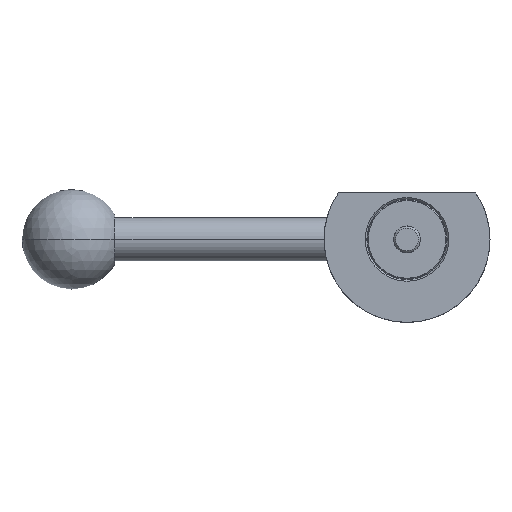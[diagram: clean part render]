
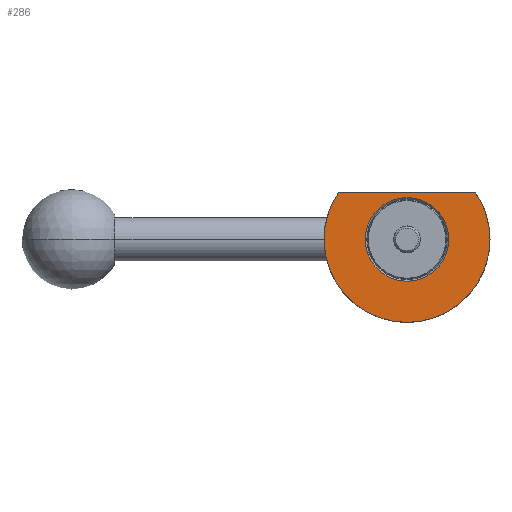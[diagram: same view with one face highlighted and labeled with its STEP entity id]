
A CAD part, front view. The second image highlights one B-rep face of the part: STEP entity #286.
In plain terms, the highlighted planar face has unit normal (0, -1, 0).
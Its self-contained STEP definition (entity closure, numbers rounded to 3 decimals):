
#32 = DIRECTION ( 'NONE',  ( 0., -1., 0. ) ) ;
#38 = DIRECTION ( 'NONE',  ( 1., 0., 0. ) ) ;
#138 = CIRCLE ( 'NONE', #341, 25. ) ;
#150 = CARTESIAN_POINT ( 'NONE',  ( 0., -12., 0. ) ) ;
#179 = CARTESIAN_POINT ( 'NONE',  ( -20.712, -12., 14. ) ) ;
#231 = DIRECTION ( 'NONE',  ( -1., 0., 0. ) ) ;
#232 = CIRCLE ( 'NONE', #493, 25. ) ;
#243 = AXIS2_PLACEMENT_3D ( 'NONE', #646, #1419, #1911 ) ;
#286 = ADVANCED_FACE ( 'NONE', ( #637, #502 ), #1101, .T. ) ;
#341 = AXIS2_PLACEMENT_3D ( 'NONE', #150, #638, #1727 ) ;
#347 = CARTESIAN_POINT ( 'NONE',  ( -12.6, -12., 14. ) ) ;
#397 = CARTESIAN_POINT ( 'NONE',  ( 25., -12., 0. ) ) ;
#410 = VERTEX_POINT ( 'NONE', #1958 ) ;
#429 = CARTESIAN_POINT ( 'NONE',  ( 0., -12., 0. ) ) ;
#439 = ORIENTED_EDGE ( 'NONE', *, *, #1849, .T. ) ;
#493 = AXIS2_PLACEMENT_3D ( 'NONE', #429, #1022, #1659 ) ;
#502 = FACE_OUTER_BOUND ( 'NONE', #874, .T. ) ;
#533 = CARTESIAN_POINT ( 'NONE',  ( 0., -12., 0. ) ) ;
#615 = CARTESIAN_POINT ( 'NONE',  ( -12.6, -12., 0. ) ) ;
#627 = LINE ( 'NONE', #347, #1430 ) ;
#637 = FACE_BOUND ( 'NONE', #1934, .T. ) ;
#638 = DIRECTION ( 'NONE',  ( 0., 1., 0. ) ) ;
#646 = CARTESIAN_POINT ( 'NONE',  ( 0., -12., 0. ) ) ;
#673 = ORIENTED_EDGE ( 'NONE', *, *, #1220, .F. ) ;
#692 = VERTEX_POINT ( 'NONE', #397 ) ;
#693 = CIRCLE ( 'NONE', #891, 25. ) ;
#695 = DIRECTION ( 'NONE',  ( -1., 0., 0. ) ) ;
#702 = EDGE_CURVE ( 'NONE', #1098, #692, #232, .T. ) ;
#712 = VERTEX_POINT ( 'NONE', #179 ) ;
#788 = ORIENTED_EDGE ( 'NONE', *, *, #1782, .T. ) ;
#857 = CIRCLE ( 'NONE', #243, 12.6 ) ;
#868 = ORIENTED_EDGE ( 'NONE', *, *, #1108, .F. ) ;
#874 = EDGE_LOOP ( 'NONE', ( #1937, #788, #868, #673 ) ) ;
#891 = AXIS2_PLACEMENT_3D ( 'NONE', #1354, #1972, #231 ) ;
#1022 = DIRECTION ( 'NONE',  ( 0., 1., 0. ) ) ;
#1089 = CIRCLE ( 'NONE', #1720, 12.6 ) ;
#1098 = VERTEX_POINT ( 'NONE', #1316 ) ;
#1101 = PLANE ( 'NONE',  #1551 ) ;
#1105 = EDGE_CURVE ( 'NONE', #1327, #1377, #1089, .T. ) ;
#1108 = EDGE_CURVE ( 'NONE', #410, #712, #138, .T. ) ;
#1220 = EDGE_CURVE ( 'NONE', #692, #410, #693, .T. ) ;
#1316 = CARTESIAN_POINT ( 'NONE',  ( 20.712, -12., 14. ) ) ;
#1327 = VERTEX_POINT ( 'NONE', #1933 ) ;
#1354 = CARTESIAN_POINT ( 'NONE',  ( 0., -12., 0. ) ) ;
#1377 = VERTEX_POINT ( 'NONE', #1594 ) ;
#1419 = DIRECTION ( 'NONE',  ( 0., 1., 0. ) ) ;
#1430 = VECTOR ( 'NONE', #695, 1000. ) ;
#1484 = DIRECTION ( 'NONE',  ( 0., 1., 0. ) ) ;
#1551 = AXIS2_PLACEMENT_3D ( 'NONE', #615, #32, #38 ) ;
#1591 = DIRECTION ( 'NONE',  ( -1., 0., 0. ) ) ;
#1594 = CARTESIAN_POINT ( 'NONE',  ( 12.6, -12., 0. ) ) ;
#1659 = DIRECTION ( 'NONE',  ( -1., 0., 0. ) ) ;
#1720 = AXIS2_PLACEMENT_3D ( 'NONE', #533, #1484, #1591 ) ;
#1727 = DIRECTION ( 'NONE',  ( -1., 0., 0. ) ) ;
#1758 = ORIENTED_EDGE ( 'NONE', *, *, #1105, .T. ) ;
#1782 = EDGE_CURVE ( 'NONE', #1098, #712, #627, .T. ) ;
#1849 = EDGE_CURVE ( 'NONE', #1377, #1327, #857, .T. ) ;
#1911 = DIRECTION ( 'NONE',  ( -1., 0., 0. ) ) ;
#1933 = CARTESIAN_POINT ( 'NONE',  ( -12.6, -12., 0. ) ) ;
#1934 = EDGE_LOOP ( 'NONE', ( #439, #1758 ) ) ;
#1937 = ORIENTED_EDGE ( 'NONE', *, *, #702, .F. ) ;
#1958 = CARTESIAN_POINT ( 'NONE',  ( -25., -12., 0. ) ) ;
#1972 = DIRECTION ( 'NONE',  ( 0., 1., 0. ) ) ;
